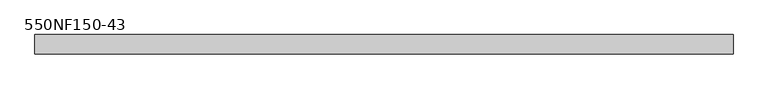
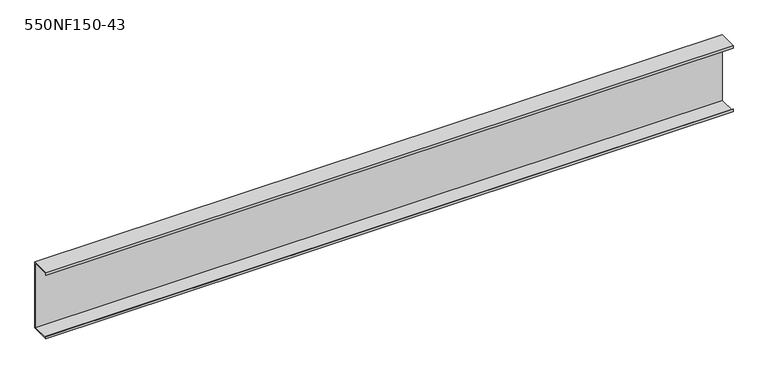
"""IFC4 building model written with IfcOpenShell, lengths in millimetres: beam geometry, BIMSF-SSMA-S : 550NF150-43."""

from ifc_helpers import new_model, si_unit, frame, origin, place, context, project, spatial, polyline, outline, extrude, source, transform, mapped, element, save


def beam_550nf150_43_2acd4e04(model_context):
    return source(origin(), model_context, "Body", "SweptSolid", [
        extrude(outline(polyline([(19.05, 69.85), (19.05, -69.85), (-19.05, -69.85), (-19.05, -65.0748), (-17.9003158, -65.0748), (-17.9003158, -68.7003158), (17.9003158, -68.7003158), (17.9003158, 68.7003158), (-17.9003158, 68.7003158), (-17.9003158, 65.0748), (-19.05, 65.0748), (-19.05, 69.85), (19.05, 69.85)])), frame((-688.975, 0.0, 0.0), z_axis=(1.0, 0.0, 0.0), x_axis=(0.0, 1.0, 0.0)), (0.0, 0.0, 1.0), 1377.95),
    ])


if __name__ == "__main__":
    model = new_model("IFC4")
    model_context = context("Model", 3, world=origin())
    ifc_project = project(units=[si_unit("LENGTHUNIT", "METRE", prefix="MILLI")], contexts=[model_context])
    site = spatial("IfcSite", under=ifc_project)
    building = spatial("IfcBuilding", under=site)
    placement = place(None, origin())
    beam_550nf150_43_shape = beam_550nf150_43_2acd4e04(model_context)
    element("IfcBeam", 1, ObjectType="BIMSF-SSMA-S : 550NF150-43", at=placement, inside=building, context=model_context, shape_type="MappedRepresentation", body=[
        mapped(beam_550nf150_43_shape, transform((0.0, 0.0, 0.0), x_axis=(1.0, 0.0, 0.0), y_axis=(0.0, 1.0, 0.0), z_axis=(0.0, 0.0, 1.0))),
    ])
    save(model, "model.ifc")
